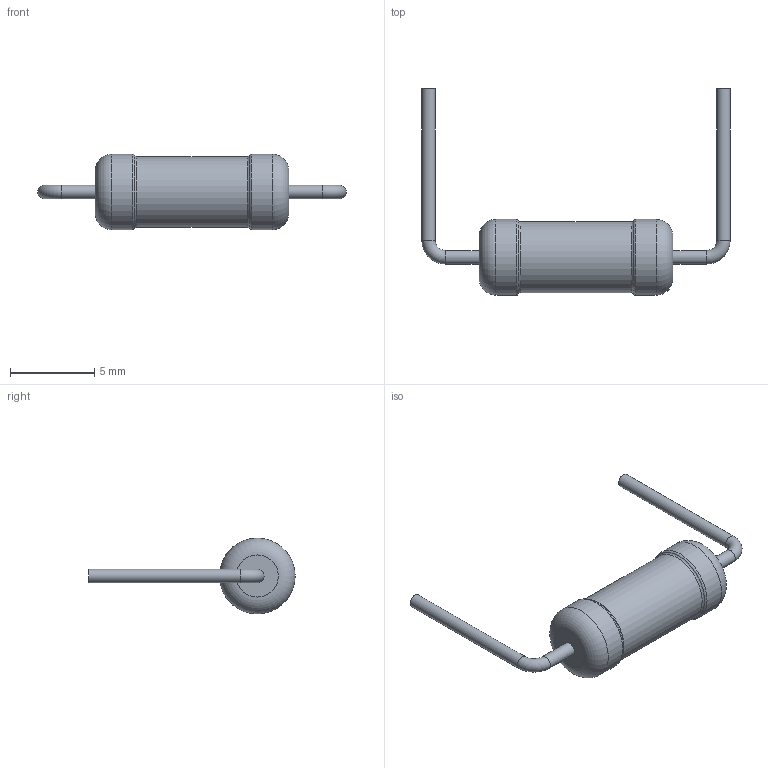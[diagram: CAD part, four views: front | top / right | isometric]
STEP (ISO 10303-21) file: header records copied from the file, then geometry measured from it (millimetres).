
FILE_DESCRIPTION(('STEP AP203'), '1');
FILE_NAME('ﾑ2-29ﾂ-0,5ﾀﾈ(1)', '', ('UNSPECIFIED'), ('UNSPECIFIED'), 'ASCON STEP Converter 1.6', 'ASCON Math Kernel', '');
FILE_SCHEMA(('CONFIG_CONTROL_DESIGN'));
Length unit declared in the file: millimetre
Bounding box: 18.3 x 12.25 x 4.5 mm (x, y, z)
Volume: 176.1 mm3; surface area: 239.6 mm2
Topology: 1 solids, 1 shells, 19 faces, 33 edges, 18 vertices
Faces by surface type: torus 8, cylinder 7, plane 4
Full cylindrical faces by diameter (mm): 0.8 x4, 4.2 x1, 4.5 x2
Entity records: 570 total; most frequent: DIRECTION 76, CARTESIAN_POINT 56, AXIS2_PLACEMENT_3D 38, EDGE_LOOP 36, ORIENTED_EDGE 36, FACE_OUTER_BOUND 30, COLOUR_RGB 20, FILL_AREA_STYLE_COLOUR 20
